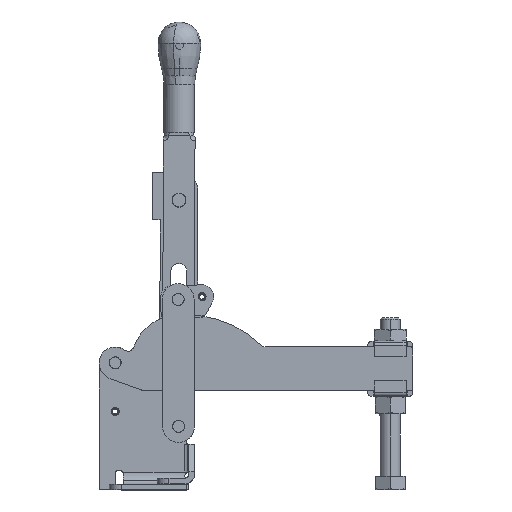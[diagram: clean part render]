
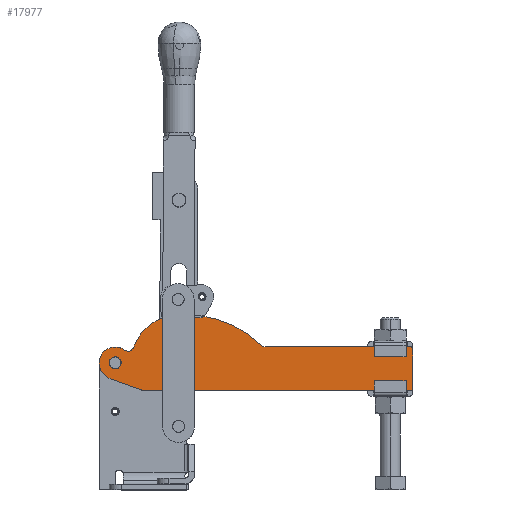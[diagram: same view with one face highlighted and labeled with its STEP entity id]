
A CAD part, top view. The second image highlights one B-rep face of the part: STEP entity #17977.
In plain terms, the highlighted planar face has unit normal (0, 0, 1).
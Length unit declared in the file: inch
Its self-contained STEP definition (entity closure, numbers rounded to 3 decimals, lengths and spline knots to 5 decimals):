
#17612=CARTESIAN_POINT('',(-7.564,0.875,0.0));
#17613=VERTEX_POINT('',#17612);
#17629=CARTESIAN_POINT('',(-7.186,0.875,0.0));
#17630=VERTEX_POINT('',#17629);
#17637=CARTESIAN_POINT('',(-7.375,0.875,0.0));
#17638=DIRECTION('',(0.0,0.0,-1.0));
#17639=DIRECTION('',(-1.0,0.0,0.0));
#17640=AXIS2_PLACEMENT_3D('',#17637,#17638,#17639);
#17641=CIRCLE('',#17640,0.189);
#17642=EDGE_CURVE('',#17613,#17630,#17641,.T.);
#17654=CARTESIAN_POINT('',(-9.564,0.875,0.0));
#17655=VERTEX_POINT('',#17654);
#17671=CARTESIAN_POINT('',(-9.186,0.875,0.0));
#17672=VERTEX_POINT('',#17671);
#17679=CARTESIAN_POINT('',(-9.375,0.875,0.0));
#17680=DIRECTION('',(0.0,0.0,-1.0));
#17681=DIRECTION('',(-1.0,0.0,0.0));
#17682=AXIS2_PLACEMENT_3D('',#17679,#17680,#17681);
#17683=CIRCLE('',#17682,0.189);
#17684=EDGE_CURVE('',#17655,#17672,#17683,.T.);
#17694=CARTESIAN_POINT('',(-8.49116,0.0076,0.0));
#17695=VERTEX_POINT('',#17694);
#17704=CARTESIAN_POINT('',(-8.57534,0.03015,0.0));
#17705=VERTEX_POINT('',#17704);
#17706=CARTESIAN_POINT('',(-8.40433,0.5,0.0));
#17707=DIRECTION('',(0.0,0.0,-1.));
#17708=DIRECTION('',(-0.174,-0.985,0.0));
#17709=AXIS2_PLACEMENT_3D('',#17706,#17707,#17708);
#17710=CIRCLE('',#17709,0.5);
#17711=EDGE_CURVE('',#17695,#17705,#17710,.T.);
#17736=CARTESIAN_POINT('',(-0.01845,1.35655,0.0));
#17737=VERTEX_POINT('',#17736);
#17746=CARTESIAN_POINT('',(0.,1.312,0.0));
#17747=VERTEX_POINT('',#17746);
#17748=CARTESIAN_POINT('',(-0.063,1.312,0.0));
#17749=DIRECTION('',(0.0,0.0,-1.));
#17750=DIRECTION('',(0.707,0.707,0.0));
#17751=AXIS2_PLACEMENT_3D('',#17748,#17749,#17750);
#17752=CIRCLE('',#17751,0.063);
#17753=EDGE_CURVE('',#17737,#17747,#17752,.T.);
#17778=CARTESIAN_POINT('',(-0.01845,0.01845,0.0));
#17779=VERTEX_POINT('',#17778);
#17788=CARTESIAN_POINT('',(-0.063,0.,0.0));
#17789=VERTEX_POINT('',#17788);
#17790=CARTESIAN_POINT('',(-0.063,0.063,0.0));
#17791=DIRECTION('',(0.0,0.0,-1.));
#17792=DIRECTION('',(0.707,-0.707,0.0));
#17793=AXIS2_PLACEMENT_3D('',#17790,#17791,#17792);
#17794=CIRCLE('',#17793,0.063);
#17795=EDGE_CURVE('',#17779,#17789,#17794,.T.);
#17830=CARTESIAN_POINT('',(0.,0.063,0.0));
#17831=VERTEX_POINT('',#17830);
#17838=CARTESIAN_POINT('',(-0.063,0.063,0.0));
#17839=DIRECTION('',(0.0,0.0,-1.));
#17840=DIRECTION('',(0.707,-0.707,0.0));
#17841=AXIS2_PLACEMENT_3D('',#17838,#17839,#17840);
#17842=CIRCLE('',#17841,0.063);
#17843=EDGE_CURVE('',#17831,#17779,#17842,.T.);
#17848=CARTESIAN_POINT('',(-4.86305,0.86559,0.0));
#17849=DIRECTION('',(0.0,0.0,1.0));
#17850=DIRECTION('',(1.0,0.0,0.0));
#17851=AXIS2_PLACEMENT_3D('',#17848,#17849,#17850);
#17852=PLANE('',#17851);
#17853=ORIENTED_EDGE('',*,*,#17843,.F.);
#17854=CARTESIAN_POINT('',(0.,0.063,0.0));
#17855=DIRECTION('',(0.0,1.0,0.0));
#17856=VECTOR('',#17855,1.249);
#17857=LINE('',#17854,#17856);
#17858=EDGE_CURVE('',#17831,#17747,#17857,.T.);
#17859=ORIENTED_EDGE('',*,*,#17858,.T.);
#17860=ORIENTED_EDGE('',*,*,#17753,.F.);
#17861=CARTESIAN_POINT('',(-0.063,1.375,0.0));
#17862=VERTEX_POINT('',#17861);
#17863=CARTESIAN_POINT('',(-0.063,1.312,0.0));
#17864=DIRECTION('',(0.0,0.0,-1.));
#17865=DIRECTION('',(0.707,0.707,0.0));
#17866=AXIS2_PLACEMENT_3D('',#17863,#17864,#17865);
#17867=CIRCLE('',#17866,0.063);
#17868=EDGE_CURVE('',#17862,#17737,#17867,.T.);
#17869=ORIENTED_EDGE('',*,*,#17868,.F.);
#17870=CARTESIAN_POINT('',(-4.61279,1.375,0.0));
#17871=VERTEX_POINT('',#17870);
#17872=CARTESIAN_POINT('',(-0.063,1.375,0.0));
#17873=DIRECTION('',(-1.0,0.0,0.0));
#17874=VECTOR('',#17873,4.54979);
#17875=LINE('',#17872,#17874);
#17876=EDGE_CURVE('',#17862,#17871,#17875,.T.);
#17877=ORIENTED_EDGE('',*,*,#17876,.T.);
#17878=CARTESIAN_POINT('',(-4.78628,1.445,0.0));
#17879=VERTEX_POINT('',#17878);
#17880=CARTESIAN_POINT('',(-4.61279,1.625,0.0));
#17881=DIRECTION('',(0.0,0.0,-1.));
#17882=DIRECTION('',(0.694,0.72,0.0));
#17883=AXIS2_PLACEMENT_3D('',#17880,#17881,#17882);
#17884=CIRCLE('',#17883,0.25);
#17885=EDGE_CURVE('',#17871,#17879,#17884,.T.);
#17886=ORIENTED_EDGE('',*,*,#17885,.T.);
#17887=CARTESIAN_POINT('',(-7.78757,2.31715,0.0));
#17888=VERTEX_POINT('',#17887);
#17889=CARTESIAN_POINT('',(-7.116,-0.972,0.0));
#17890=DIRECTION('',(0.0,0.0,1.0));
#17891=DIRECTION('',(0.694,0.72,0.0));
#17892=AXIS2_PLACEMENT_3D('',#17889,#17890,#17891);
#17893=CIRCLE('',#17892,3.35701);
#17894=EDGE_CURVE('',#17879,#17888,#17893,.T.);
#17895=ORIENTED_EDGE('',*,*,#17894,.T.);
#17896=CARTESIAN_POINT('',(-8.79147,1.36857,0.0));
#17897=VERTEX_POINT('',#17896);
#17898=CARTESIAN_POINT('',(-7.375,0.875,0.0));
#17899=DIRECTION('',(0.0,0.0,1.0));
#17900=DIRECTION('',(-0.275,0.961,0.0));
#17901=AXIS2_PLACEMENT_3D('',#17898,#17899,#17900);
#17902=CIRCLE('',#17901,1.5);
#17903=EDGE_CURVE('',#17888,#17897,#17902,.T.);
#17904=ORIENTED_EDGE('',*,*,#17903,.T.);
#17905=CARTESIAN_POINT('',(-9.07994,1.27866,0.0));
#17906=VERTEX_POINT('',#17905);
#17907=CARTESIAN_POINT('',(-8.969,1.43043,0.0));
#17908=DIRECTION('',(0.0,0.0,-1.0));
#17909=DIRECTION('',(0.59,0.807,0.0));
#17910=AXIS2_PLACEMENT_3D('',#17907,#17908,#17909);
#17911=CIRCLE('',#17910,0.188);
#17912=EDGE_CURVE('',#17897,#17906,#17911,.T.);
#17913=ORIENTED_EDGE('',*,*,#17912,.T.);
#17914=CARTESIAN_POINT('',(-9.875,0.875,0.0));
#17915=VERTEX_POINT('',#17914);
#17916=CARTESIAN_POINT('',(-9.375,0.875,0.0));
#17917=DIRECTION('',(0.0,0.0,1.0));
#17918=DIRECTION('',(0.59,0.807,0.0));
#17919=AXIS2_PLACEMENT_3D('',#17916,#17917,#17918);
#17920=CIRCLE('',#17919,0.5);
#17921=EDGE_CURVE('',#17906,#17915,#17920,.T.);
#17922=ORIENTED_EDGE('',*,*,#17921,.T.);
#17923=CARTESIAN_POINT('',(-9.52561,0.37602,0.0));
#17924=VERTEX_POINT('',#17923);
#17925=CARTESIAN_POINT('',(-9.344,0.875,0.0));
#17926=DIRECTION('',(0.0,0.0,1.0));
#17927=DIRECTION('',(-1.0,0.0,0.0));
#17928=AXIS2_PLACEMENT_3D('',#17925,#17926,#17927);
#17929=CIRCLE('',#17928,0.531);
#17930=EDGE_CURVE('',#17915,#17924,#17929,.T.);
#17931=ORIENTED_EDGE('',*,*,#17930,.T.);
#17932=CARTESIAN_POINT('',(-9.52561,0.37602,0.0));
#17933=DIRECTION('',(0.94,-0.342,0.0));
#17934=VECTOR('',#17933,1.01125);
#17935=LINE('',#17932,#17934);
#17936=EDGE_CURVE('',#17924,#17705,#17935,.T.);
#17937=ORIENTED_EDGE('',*,*,#17936,.T.);
#17938=ORIENTED_EDGE('',*,*,#17711,.F.);
#17939=CARTESIAN_POINT('',(-8.40433,0.,0.0));
#17940=VERTEX_POINT('',#17939);
#17941=CARTESIAN_POINT('',(-8.40433,0.5,0.0));
#17942=DIRECTION('',(0.0,0.0,-1.));
#17943=DIRECTION('',(-0.174,-0.985,0.0));
#17944=AXIS2_PLACEMENT_3D('',#17941,#17942,#17943);
#17945=CIRCLE('',#17944,0.5);
#17946=EDGE_CURVE('',#17940,#17695,#17945,.T.);
#17947=ORIENTED_EDGE('',*,*,#17946,.F.);
#17948=CARTESIAN_POINT('',(-8.40433,0.,0.0));
#17949=DIRECTION('',(1.0,0.0,0.0));
#17950=VECTOR('',#17949,8.34133);
#17951=LINE('',#17948,#17950);
#17952=EDGE_CURVE('',#17940,#17789,#17951,.T.);
#17953=ORIENTED_EDGE('',*,*,#17952,.T.);
#17954=ORIENTED_EDGE('',*,*,#17795,.F.);
#17955=EDGE_LOOP('',(#17853,#17859,#17860,#17869,#17877,#17886,#17895,#17904,#17913,#17922,#17931,#17937,#17938,#17947,#17953,#17954));
#17956=FACE_OUTER_BOUND('',#17955,.T.);
#17957=CARTESIAN_POINT('',(-7.375,0.875,0.0));
#17958=DIRECTION('',(0.0,0.0,-1.0));
#17959=DIRECTION('',(-1.0,0.0,0.0));
#17960=AXIS2_PLACEMENT_3D('',#17957,#17958,#17959);
#17961=CIRCLE('',#17960,0.189);
#17962=EDGE_CURVE('',#17630,#17613,#17961,.T.);
#17963=ORIENTED_EDGE('',*,*,#17962,.T.);
#17964=ORIENTED_EDGE('',*,*,#17642,.T.);
#17965=EDGE_LOOP('',(#17963,#17964));
#17966=FACE_BOUND('',#17965,.T.);
#17967=CARTESIAN_POINT('',(-9.375,0.875,0.0));
#17968=DIRECTION('',(0.0,0.0,-1.0));
#17969=DIRECTION('',(-1.0,0.0,0.0));
#17970=AXIS2_PLACEMENT_3D('',#17967,#17968,#17969);
#17971=CIRCLE('',#17970,0.189);
#17972=EDGE_CURVE('',#17672,#17655,#17971,.T.);
#17973=ORIENTED_EDGE('',*,*,#17972,.T.);
#17974=ORIENTED_EDGE('',*,*,#17684,.T.);
#17975=EDGE_LOOP('',(#17973,#17974));
#17976=FACE_BOUND('',#17975,.T.);
#17977=ADVANCED_FACE('',(#17956,#17966,#17976),#17852,.T.);
